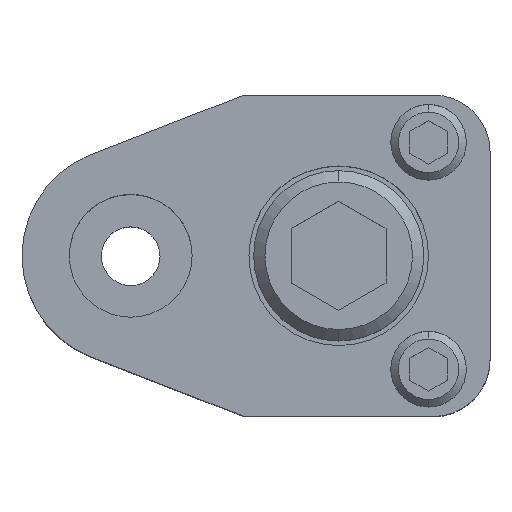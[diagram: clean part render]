
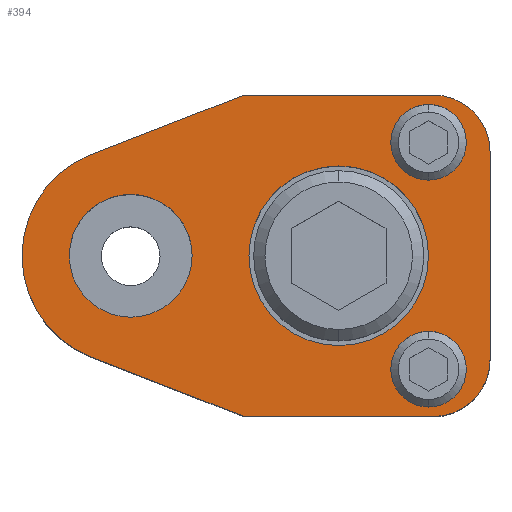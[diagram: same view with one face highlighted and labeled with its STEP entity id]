
A CAD part, top view. The second image highlights one B-rep face of the part: STEP entity #394.
In plain terms, the highlighted planar face has unit normal (0, 0, 1).
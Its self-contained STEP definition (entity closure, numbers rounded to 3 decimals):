
#196=FACE_BOUND('',#703,.T.);
#197=FACE_BOUND('',#704,.T.);
#198=FACE_BOUND('',#705,.T.);
#199=FACE_BOUND('',#706,.T.);
#200=FACE_BOUND('',#707,.T.);
#247=CIRCLE('',#2294,6.);
#250=CIRCLE('',#2300,6.);
#255=CIRCLE('',#2308,9.5);
#257=CIRCLE('',#2311,9.5);
#259=CIRCLE('',#2315,11.5);
#260=CIRCLE('',#2316,4.);
#261=CIRCLE('',#2317,4.);
#262=CIRCLE('',#2318,4.);
#263=CIRCLE('',#2319,4.);
#264=CIRCLE('',#2320,6.5);
#265=CIRCLE('',#2321,6.5);
#394=ADVANCED_FACE('',(#196,#197,#198,#199,#200),#507,.T.);
#507=PLANE('',#2322);
#703=EDGE_LOOP('',(#985,#986,#987,#988,#989,#990,#991,#992));
#704=EDGE_LOOP('',(#993,#994));
#705=EDGE_LOOP('',(#995,#996));
#706=EDGE_LOOP('',(#997,#998));
#707=EDGE_LOOP('',(#999,#1000));
#985=ORIENTED_EDGE('',*,*,#1675,.T.);
#986=ORIENTED_EDGE('',*,*,#1679,.T.);
#987=ORIENTED_EDGE('',*,*,#1682,.T.);
#988=ORIENTED_EDGE('',*,*,#1702,.T.);
#989=ORIENTED_EDGE('',*,*,#1703,.T.);
#990=ORIENTED_EDGE('',*,*,#1704,.T.);
#991=ORIENTED_EDGE('',*,*,#1685,.T.);
#992=ORIENTED_EDGE('',*,*,#1689,.T.);
#993=ORIENTED_EDGE('',*,*,#1705,.F.);
#994=ORIENTED_EDGE('',*,*,#1706,.F.);
#995=ORIENTED_EDGE('',*,*,#1707,.F.);
#996=ORIENTED_EDGE('',*,*,#1708,.F.);
#997=ORIENTED_EDGE('',*,*,#1700,.F.);
#998=ORIENTED_EDGE('',*,*,#1696,.F.);
#999=ORIENTED_EDGE('',*,*,#1709,.T.);
#1000=ORIENTED_EDGE('',*,*,#1710,.T.);
#1458=VERTEX_POINT('',#3316);
#1459=VERTEX_POINT('',#3318);
#1462=VERTEX_POINT('',#3325);
#1464=VERTEX_POINT('',#3331);
#1466=VERTEX_POINT('',#3337);
#1467=VERTEX_POINT('',#3339);
#1473=VERTEX_POINT('',#3360);
#1474=VERTEX_POINT('',#3361);
#1477=VERTEX_POINT('',#3373);
#1478=VERTEX_POINT('',#3375);
#1479=VERTEX_POINT('',#3378);
#1480=VERTEX_POINT('',#3379);
#1481=VERTEX_POINT('',#3382);
#1482=VERTEX_POINT('',#3383);
#1483=VERTEX_POINT('',#3386);
#1484=VERTEX_POINT('',#3387);
#1675=EDGE_CURVE('',#1459,#1458,#1959,.T.);
#1679=EDGE_CURVE('',#1458,#1462,#247,.T.);
#1682=EDGE_CURVE('',#1462,#1464,#1964,.T.);
#1685=EDGE_CURVE('',#1467,#1466,#1967,.T.);
#1689=EDGE_CURVE('',#1466,#1459,#250,.T.);
#1696=EDGE_CURVE('',#1473,#1474,#255,.T.);
#1700=EDGE_CURVE('',#1474,#1473,#257,.T.);
#1702=EDGE_CURVE('',#1464,#1477,#1974,.T.);
#1703=EDGE_CURVE('',#1477,#1478,#259,.T.);
#1704=EDGE_CURVE('',#1478,#1467,#1975,.T.);
#1705=EDGE_CURVE('',#1479,#1480,#260,.T.);
#1706=EDGE_CURVE('',#1480,#1479,#261,.T.);
#1707=EDGE_CURVE('',#1481,#1482,#262,.T.);
#1708=EDGE_CURVE('',#1482,#1481,#263,.T.);
#1709=EDGE_CURVE('',#1483,#1484,#264,.T.);
#1710=EDGE_CURVE('',#1484,#1483,#265,.T.);
#1959=LINE('',#3317,#2127);
#1964=LINE('',#3332,#2132);
#1967=LINE('',#3338,#2135);
#1974=LINE('',#3372,#2142);
#1975=LINE('',#3376,#2143);
#2127=VECTOR('',#2644,1.);
#2132=VECTOR('',#2657,1.);
#2135=VECTOR('',#2662,1.);
#2142=VECTOR('',#2703,1.);
#2143=VECTOR('',#2706,1.);
#2294=AXIS2_PLACEMENT_3D('',#3326,#2650,#2651);
#2300=AXIS2_PLACEMENT_3D('',#3345,#2669,#2670);
#2308=AXIS2_PLACEMENT_3D('',#3359,#2687,#2688);
#2311=AXIS2_PLACEMENT_3D('',#3368,#2695,#2696);
#2315=AXIS2_PLACEMENT_3D('',#3374,#2704,#2705);
#2316=AXIS2_PLACEMENT_3D('',#3377,#2707,#2708);
#2317=AXIS2_PLACEMENT_3D('',#3380,#2709,#2710);
#2318=AXIS2_PLACEMENT_3D('',#3381,#2711,#2712);
#2319=AXIS2_PLACEMENT_3D('',#3384,#2713,#2714);
#2320=AXIS2_PLACEMENT_3D('',#3385,#2715,#2716);
#2321=AXIS2_PLACEMENT_3D('',#3388,#2717,#2718);
#2322=AXIS2_PLACEMENT_3D('',#3389,#2719,#2720);
#2644=DIRECTION('',(0.,1.,0.));
#2650=DIRECTION('',(0.,0.,1.));
#2651=DIRECTION('',(-0.707,-0.707,0.));
#2657=DIRECTION('',(-1.,0.,0.));
#2662=DIRECTION('',(1.,0.,0.));
#2669=DIRECTION('',(0.,0.,1.));
#2670=DIRECTION('',(-0.707,0.707,0.));
#2687=DIRECTION('',(0.,0.,1.));
#2688=DIRECTION('',(-1.,0.,0.));
#2695=DIRECTION('',(0.,0.,1.));
#2696=DIRECTION('',(1.,0.,0.));
#2703=DIRECTION('',(-0.932,-0.362,0.));
#2704=DIRECTION('',(0.,0.,1.));
#2705=DIRECTION('',(0.,1.,0.));
#2706=DIRECTION('',(0.932,-0.362,0.));
#2707=DIRECTION('',(0.,0.,1.));
#2708=DIRECTION('',(-1.,0.,0.));
#2709=DIRECTION('',(0.,0.,1.));
#2710=DIRECTION('',(1.,0.,0.));
#2711=DIRECTION('',(0.,0.,1.));
#2712=DIRECTION('',(-1.,0.,0.));
#2713=DIRECTION('',(0.,0.,1.));
#2714=DIRECTION('',(1.,0.,0.));
#2715=DIRECTION('',(0.,0.,-1.));
#2716=DIRECTION('',(-1.,0.,0.));
#2717=DIRECTION('',(0.,0.,-1.));
#2718=DIRECTION('',(1.,0.,0.));
#2719=DIRECTION('',(0.,0.,1.));
#2720=DIRECTION('',(0.,-1.,0.));
#3316=CARTESIAN_POINT('',(38.,11.,30.));
#3317=CARTESIAN_POINT('',(38.,-11.,30.));
#3318=CARTESIAN_POINT('',(38.,-11.,30.));
#3325=CARTESIAN_POINT('',(32.,17.,30.));
#3326=CARTESIAN_POINT('',(32.,11.,30.));
#3331=CARTESIAN_POINT('',(12.,17.,30.));
#3332=CARTESIAN_POINT('',(12.,17.,30.));
#3337=CARTESIAN_POINT('',(32.,-17.,30.));
#3338=CARTESIAN_POINT('',(12.,-17.,30.));
#3339=CARTESIAN_POINT('',(12.,-17.,30.));
#3345=CARTESIAN_POINT('',(32.,-11.,30.));
#3359=CARTESIAN_POINT('',(22.,0.,30.));
#3360=CARTESIAN_POINT('',(22.,-9.5,30.));
#3361=CARTESIAN_POINT('',(22.,9.5,30.));
#3368=CARTESIAN_POINT('',(22.,0.,30.));
#3372=CARTESIAN_POINT('',(12.,17.,30.));
#3373=CARTESIAN_POINT('',(-4.165,10.719,30.));
#3374=CARTESIAN_POINT('',(0.,0.,30.));
#3375=CARTESIAN_POINT('',(-4.165,-10.719,30.));
#3376=CARTESIAN_POINT('',(12.,-17.,30.));
#3377=CARTESIAN_POINT('',(31.5,-12.,30.));
#3378=CARTESIAN_POINT('',(31.5,-16.,30.));
#3379=CARTESIAN_POINT('',(31.5,-8.,30.));
#3380=CARTESIAN_POINT('',(31.5,-12.,30.));
#3381=CARTESIAN_POINT('',(31.5,12.,30.));
#3382=CARTESIAN_POINT('',(31.5,8.,30.));
#3383=CARTESIAN_POINT('',(31.5,16.,30.));
#3384=CARTESIAN_POINT('',(31.5,12.,30.));
#3385=CARTESIAN_POINT('',(0.,0.,30.));
#3386=CARTESIAN_POINT('',(0.,6.5,30.));
#3387=CARTESIAN_POINT('',(0.,-6.5,30.));
#3388=CARTESIAN_POINT('',(0.,0.,30.));
#3389=CARTESIAN_POINT('',(38.,-11.,30.));
